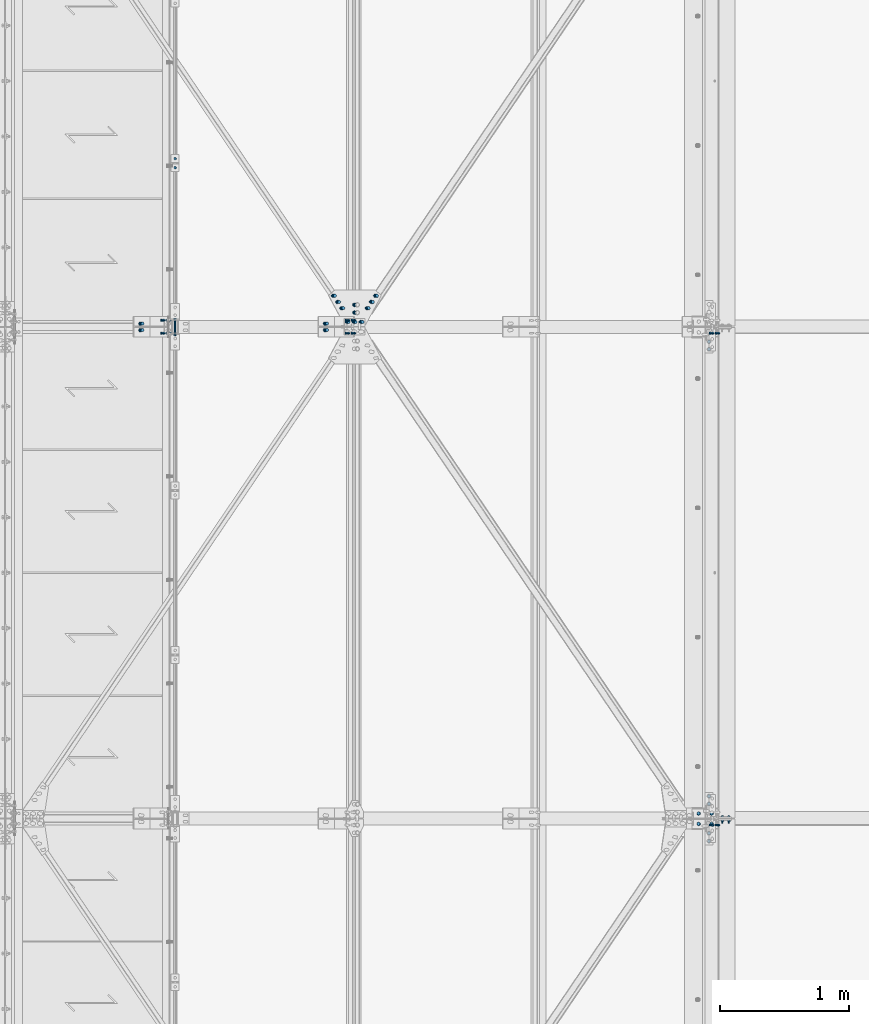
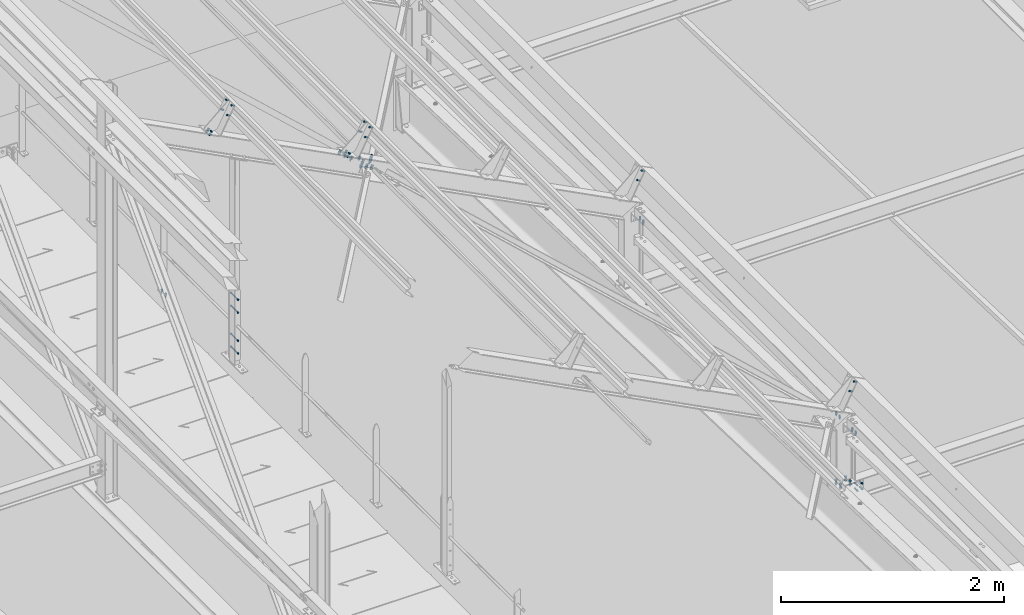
# One storey, part 176 of 362: 18 mechanical fasteners.
"""IFC2X3 building model written with IfcOpenShell, lengths in millimetres."""

from ifc_helpers import new_model, si_unit, frame, frame_2d, origin_with_axes, origin_2d_with_axis, place, context, subcontext, project, spatial, polyline, circle_curve, parameter, trimmed, segment, composite_curve, circle, outline, extrude, source, transform, mapped, material, type_object, element, save


model = new_model("IFC2X3")

# Units and contexts
model_context = context("Model", 3, precision=1e-05, world=origin_with_axes())
body_context = subcontext(model_context, "Body", "Model", "MODEL_VIEW")
ifc_project = project(units=[si_unit("LENGTHUNIT", "METRE", prefix="MILLI"), si_unit("AREAUNIT", "SQUARE_METRE"), si_unit("VOLUMEUNIT", "CUBIC_METRE"), si_unit("MASSUNIT", "GRAM", prefix="KILO"), si_unit("TIMEUNIT", "SECOND"), si_unit("PLANEANGLEUNIT", "RADIAN"), si_unit("SOLIDANGLEUNIT", "STERADIAN"), si_unit("THERMODYNAMICTEMPERATUREUNIT", "DEGREE_CELSIUS"), si_unit("LUMINOUSINTENSITYUNIT", "LUMEN")], contexts=[model_context])

# Site, building, storey
site_placement = place(None, origin_with_axes())
site = spatial("IfcSite", under=ifc_project, at=site_placement, Name="Undefined", CompositionType="ELEMENT")
building_placement = place(site_placement, origin_with_axes())
building = spatial("IfcBuilding", under=site, at=building_placement, Name="Undefined", CompositionType="ELEMENT")
storey_placement = place(building_placement, origin_with_axes())
storey = spatial("IfcBuildingStorey", under=building, at=storey_placement, Name="Undefined", CompositionType="ELEMENT", Elevation=0.0)

# Mechanical fasteners
ifc_material_1 = material(Name="8.8-SB-ZINGUE")
mechanical_fastener_type = type_object("IfcMechanicalFastenerType", Name="Bolt assembly")
shared_shape_1 = source(origin_with_axes(), body_context, "Body", "SweptSolid", [
    extrude(circle(Radius=7.0, at=origin_2d_with_axis()), frame((0.0, -0.10007666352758, 0.0), z_axis=(0.0, 1.0, 0.0), x_axis=(1.0, 0.0, 0.0)), (0.0, 0.0, 1.0), 3.1),
    extrude(circle(Radius=7.0, at=origin_2d_with_axis()), frame((0.0, -9.9, 0.0), z_axis=(0.0, 1.0, 0.0), x_axis=(1.0, 0.0, 0.0)), (0.0, 0.0, 1.0), 10.0),
    extrude(outline(polyline([(10.39230484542, 0.0), (5.19615242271, 9.00000000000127), (-5.19615242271, 9.00000000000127), (-10.39230484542, 0.0), (-5.19615242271, -9.00000000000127), (5.19615242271, -9.00000000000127), (10.39230484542, 0.0)])), frame((0.0, -17.92, 0.0), z_axis=(0.0, 1.0, 0.0), x_axis=(1.0, 0.0, 0.0)), (0.0, 0.0, 1.0), 7.92),
    extrude(circle(Radius=6.0, at=origin_2d_with_axis()), frame((0.0, -10.0000010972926, 0.0), z_axis=(0.0, 1.0, 0.0), x_axis=(1.0, 0.0, 0.0)), (0.0, 0.0, 1.0), 30.0),
    extrude(outline(polyline([(11.5008173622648, 0.0), (5.7504086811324, 9.96000000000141), (-5.7504086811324, 9.96000000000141), (-11.5008173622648, 0.0), (-5.7504086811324, -9.96000000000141), (5.7504086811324, -9.96000000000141), (11.5008173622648, 0.0)])), frame((0.0, 3.00000067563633, 0.0), z_axis=(0.0, 1.0, 0.0), x_axis=(1.0, 0.0, 0.0)), (0.0, 0.0, 1.0), 7.92),
])
for number, where, z_axis, x_axis, name in (
    (1, (28930.4869404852, 11350.0000596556, 8812.17854909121), (0.0, 1.0, 0.0), (0.460093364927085, 0.0, 0.887870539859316), "Bolt assembly"),
    (2, (28930.4869404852, 7550.0000596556, 8812.17854909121), (0.0, 1.0, 0.0), (0.460093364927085, 0.0, 0.887870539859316), "Bolt assembly"),
):
    element("IfcMechanicalFastener", number, at=place(storey_placement, frame(where, z_axis=z_axis, x_axis=x_axis)), inside=storey, type_object=mechanical_fastener_type, material=ifc_material_1, Name=name, NominalDiameter=12.0, NominalLength=30.0, context=body_context, shape_type="MappedRepresentation", body=[
        mapped(shared_shape_1, transform((0.0, 0.0, 0.0))),
        mapped(shared_shape_1, transform((99.9999999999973, -1.63709046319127e-11, 7.73070496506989e-12))),
    ])
shared_shape_2 = source(origin_with_axes(), body_context, "Body", "SweptSolid", [
    extrude(circle(Radius=7.0, at=origin_2d_with_axis()), frame((0.0, -10.0000010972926, 0.0), z_axis=(0.0, 1.0, 0.0), x_axis=(1.0, 0.0, 0.0)), (0.0, 0.0, 1.0), 10.1),
    extrude(outline(polyline([(10.39230484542, 0.0), (5.19615242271, 9.00000000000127), (-5.19615242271, 9.00000000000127), (-10.39230484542, 0.0), (-5.19615242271, -9.00000000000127), (5.19615242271, -9.00000000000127), (10.39230484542, 0.0)])), frame((0.0, -17.92, 0.0), z_axis=(0.0, 1.0, 0.0), x_axis=(1.0, 0.0, 0.0)), (0.0, 0.0, 1.0), 7.92),
    extrude(circle(Radius=6.0, at=origin_2d_with_axis()), frame((0.0, -10.0000010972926, 0.0), z_axis=(0.0, 1.0, 0.0), x_axis=(1.0, 0.0, 0.0)), (0.0, 0.0, 1.0), 40.0),
    extrude(outline(polyline([(11.5008173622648, 0.0), (5.7504086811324, 9.96000000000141), (-5.7504086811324, 9.96000000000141), (-11.5008173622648, 0.0), (-5.7504086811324, -9.96000000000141), (5.7504086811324, -9.96000000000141), (11.5008173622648, 0.0)])), frame((0.0, 0.0, 0.0), z_axis=(0.0, 1.0, 0.0), x_axis=(1.0, 0.0, 0.0)), (0.0, 0.0, 1.0), 7.92),
])
mechanical_fastener_1_placement = place(storey_placement, frame((24783.9916066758, 12630.0034395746, 8239.99999832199), z_axis=(-1.0, 0.0, 0.0), x_axis=(0.0, 1.0, 0.0)))
element("IfcMechanicalFastener", 3, at=mechanical_fastener_1_placement, inside=storey, type_object=mechanical_fastener_type, material=ifc_material_1, Name="Bolt assembly", NominalDiameter=12.0, NominalLength=40.0, context=body_context, shape_type="MappedRepresentation", body=[
    mapped(shared_shape_2, transform((0.0, 0.0, 0.0))),
    mapped(shared_shape_2, transform((70.0, -2.91038304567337e-11, 2.18278728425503e-10))),
])
ifc_material_2 = material(Name="6.8")
shared_shape_3 = source(origin_with_axes(), body_context, "Body", "SweptSolid", [
    extrude(circle(Radius=7.0, at=origin_2d_with_axis()), frame((0.0, -49.9999938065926, 0.0), z_axis=(0.0, 1.0, 0.0), x_axis=(1.0, 0.0, 0.0)), (0.0, 0.0, 1.0), 100.0),
    extrude(circle(Radius=7.0, at=origin_2d_with_axis()), frame((0.0, -57.3998951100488, 0.0), z_axis=(0.0, 1.0, 0.0), x_axis=(1.0, 0.0, 0.0)), (0.0, 0.0, 1.0), 5.0),
    extrude(circle(Radius=7.0, at=origin_2d_with_axis()), frame((0.0, 52.4001048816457, 0.0), z_axis=(0.0, 1.0, 0.0), x_axis=(1.0, 0.0, 0.0)), (0.0, 0.0, 1.0), 5.1),
    extrude(outline(polyline([(10.96965511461, 0.0), (5.484827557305, 9.50000000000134), (-5.484827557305, 9.50000000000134), (-10.96965511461, 0.0), (-5.484827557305, -9.50000000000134), (5.484827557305, -9.50000000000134), (10.96965511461, 0.0)])), frame((0.0, -65.4998951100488, 0.0), z_axis=(0.0, 1.0, 0.0), x_axis=(1.0, 0.0, 0.0)), (0.0, 0.0, 1.0), 8.0),
    extrude(circle(Radius=6.0, at=origin_2d_with_axis()), frame((0.0, -57.4998951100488, 0.0), z_axis=(0.0, 1.0, 0.0), x_axis=(1.0, 0.0, 0.0)), (0.0, 0.0, 1.0), 130.0),
    extrude(outline(polyline([(10.39230484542, 0.0), (5.19615242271, 9.00000000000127), (-5.19615242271, 9.00000000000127), (-10.39230484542, 0.0), (-5.19615242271, -9.00000000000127), (5.19615242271, -9.00000000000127), (10.39230484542, 0.0)])), frame((0.0, 57.5001048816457, 0.0), z_axis=(0.0, 1.0, 0.0), x_axis=(1.0, 0.0, 0.0)), (0.0, 0.0, 1.0), 10.8),
])
for number, where, z_axis, x_axis, name in (
    (4, (24783.9916060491, 11400.0001063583, 8450.17500164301), (0.0, 0.0, 1.0), (-1.0, 0.0, 0.0), "Bolt assembly"),
    (5, (24783.9916060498, 11400.0001066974, 8897.42499864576), (0.0, 0.0, 1.0), (-1.0, 0.0, 0.0), "Bolt assembly"),
):
    element("IfcMechanicalFastener", number, at=place(storey_placement, frame(where, z_axis=z_axis, x_axis=x_axis)), inside=storey, type_object=mechanical_fastener_type, material=ifc_material_2, Name=name, NominalDiameter=12.0, NominalLength=130.0, context=body_context, shape_type="MappedRepresentation", body=[
        mapped(shared_shape_3, transform((0.0, 6.3664629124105e-11, -70.0))),
        mapped(shared_shape_3, transform((0.0, -6.3664629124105e-11, 70.0))),
    ])
ifc_material_3 = material(Name="#_SB-8.8-ZINGUE")
shared_shape_4 = source(origin_with_axes(), body_context, "Body", "SweptSolid", [
    extrude(circle(Radius=9.0, at=origin_2d_with_axis()), frame((0.0, -5.8999542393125, 0.0), z_axis=(0.0, 1.0, 0.0), x_axis=(1.0, 0.0, 0.0)), (0.0, 0.0, 1.0), 6.0),
    extrude(circle(Radius=9.0, at=origin_2d_with_axis()), frame((0.0, -0.10007666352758, 0.0), z_axis=(0.0, 1.0, 0.0), x_axis=(1.0, 0.0, 0.0)), (0.0, 0.0, 1.0), 6.1),
    extrude(outline(polyline([(13.85640646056, 0.0), (6.92820323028, 12.0000000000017), (-6.92820323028, 12.0000000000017), (-13.85640646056, 0.0), (-6.92820323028, -12.0000000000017), (6.92820323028, -12.0000000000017), (13.85640646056, 0.0)])), frame((0.0, -16.5599735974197, 0.0), z_axis=(0.0, 1.0, 0.0), x_axis=(1.0, 0.0, 0.0)), (0.0, 0.0, 1.0), 10.56),
    extrude(circle(Radius=8.0, at=origin_2d_with_axis()), frame((0.0, -5.9999542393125, 0.0), z_axis=(0.0, 1.0, 0.0), x_axis=(1.0, 0.0, 0.0)), (0.0, 0.0, 1.0), 40.0),
    extrude(outline(polyline([(15.3344231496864, 0.0), (7.6672115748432, 13.2800000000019), (-7.6672115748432, 13.2800000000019), (-15.3344231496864, 0.0), (-7.6672115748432, -13.2800000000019), (7.6672115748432, -13.2800000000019), (15.3344231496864, 0.0)])), frame((0.0, 6.0, 0.0), z_axis=(0.0, 1.0, 0.0), x_axis=(1.0, 0.0, 0.0)), (0.0, 0.0, 1.0), 10.56),
])
mechanical_fastener_2_placement = place(storey_placement, frame((26273.0064497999, 11544.8102876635, 9840.13105217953), z_axis=(-0.70611707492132, 0.606225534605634, 0.365908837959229), x_axis=(0.53824982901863, 0.795292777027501, -0.278920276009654)))
element("IfcMechanicalFastener", 6, at=mechanical_fastener_2_placement, inside=storey, type_object=mechanical_fastener_type, material=ifc_material_3, Name="Bolt assembly", NominalDiameter=16.0, NominalLength=40.0, context=body_context, shape_type="MappedRepresentation", body=[
    mapped(shared_shape_4, transform((0.0, 0.0, 0.0))),
    mapped(shared_shape_4, transform((60.0, 0.0, 0.0))),
    mapped(shared_shape_4, transform((120.0, 0.0, 0.0))),
])
shared_shape_5 = source(origin_with_axes(), body_context, "Body", "SweptSolid", [
    extrude(circle(Radius=7.0, at=origin_2d_with_axis()), frame((0.0, -0.10007666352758, 0.0), z_axis=(0.0, 1.0, 0.0), x_axis=(1.0, 0.0, 0.0)), (0.0, 0.0, 1.0), 1.6),
    extrude(circle(Radius=7.0, at=origin_2d_with_axis()), frame((0.0, -9.9, 0.0), z_axis=(0.0, 1.0, 0.0), x_axis=(1.0, 0.0, 0.0)), (0.0, 0.0, 1.0), 10.0),
    extrude(outline(polyline([(10.39230484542, 0.0), (5.19615242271, 9.00000000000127), (-5.19615242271, 9.00000000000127), (-10.39230484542, 0.0), (-5.19615242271, -9.00000000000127), (5.19615242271, -9.00000000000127), (10.39230484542, 0.0)])), frame((0.0, -17.92, 0.0), z_axis=(0.0, 1.0, 0.0), x_axis=(1.0, 0.0, 0.0)), (0.0, 0.0, 1.0), 7.92),
    extrude(circle(Radius=6.0, at=origin_2d_with_axis()), frame((0.0, -10.0000010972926, 0.0), z_axis=(0.0, 1.0, 0.0), x_axis=(1.0, 0.0, 0.0)), (0.0, 0.0, 1.0), 30.0),
    extrude(outline(polyline([(11.5008173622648, 0.0), (5.7504086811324, 9.96000000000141), (-5.7504086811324, 9.96000000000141), (-11.5008173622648, 0.0), (-5.7504086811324, -9.96000000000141), (5.7504086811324, -9.96000000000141), (11.5008173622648, 0.0)])), frame((0.0, 1.50001896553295, 0.0), z_axis=(0.0, 1.0, 0.0), x_axis=(1.0, 0.0, 0.0)), (0.0, 0.0, 1.0), 7.92),
])
for number, where, z_axis, x_axis, name in (
    (7, (24690.1060148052, 11400.0000596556, 11008.4114172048), (0.0, 1.0, 0.0), (0.460093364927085, 0.0, 0.887870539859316), "Bolt assembly"),
    (8, (26116.7310155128, 11400.0000596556, 10269.1364403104), (0.0, 1.0, 0.0), (0.460093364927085, 0.0, 0.887870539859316), "Bolt assembly"),
):
    element("IfcMechanicalFastener", number, at=place(storey_placement, frame(where, z_axis=z_axis, x_axis=x_axis)), inside=storey, type_object=mechanical_fastener_type, material=ifc_material_1, Name=name, NominalDiameter=12.0, NominalLength=30.0, context=body_context, shape_type="MappedRepresentation", body=[
        mapped(shared_shape_5, transform((0.0, 0.0, -50.0))),
        mapped(shared_shape_5, transform((102.00000000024, -2.51020537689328e-10, -50.0))),
        mapped(shared_shape_5, transform((0.0, 0.0, 50.0))),
        mapped(shared_shape_5, transform((102.00000000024, -2.51020537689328e-10, 50.0))),
    ])
shared_shape_6 = source(origin_with_axes(), body_context, "Body", "SweptSolid", [
    extrude(circle(Radius=9.0, at=origin_2d_with_axis()), frame((0.0, -0.0999426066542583, 0.0), z_axis=(0.0, 1.0, 0.0), x_axis=(1.0, 0.0, 0.0)), (0.0, 0.0, 1.0), 8.6),
    extrude(circle(Radius=9.0, at=origin_2d_with_axis()), frame((0.0, -9.9, 0.0), z_axis=(0.0, 1.0, 0.0), x_axis=(1.0, 0.0, 0.0)), (0.0, 0.0, 1.0), 10.0),
    extrude(outline(polyline([(13.85640646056, 0.0), (6.92820323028, 12.0000000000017), (-6.92820323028, 12.0000000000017), (-13.85640646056, 0.0), (-6.92820323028, -12.0000000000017), (6.92820323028, -12.0000000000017), (13.85640646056, 0.0)])), frame((0.0, -20.5600000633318, 0.0), z_axis=(0.0, 1.0, 0.0), x_axis=(1.0, 0.0, 0.0)), (0.0, 0.0, 1.0), 10.56),
    extrude(circle(Radius=8.0, at=origin_2d_with_axis()), frame((0.0, -10.0000010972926, 0.0), z_axis=(0.0, 1.0, 0.0), x_axis=(1.0, 0.0, 0.0)), (0.0, 0.0, 1.0), 40.0),
    extrude(outline(polyline([(15.3344231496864, 0.0), (7.6672115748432, 13.2800000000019), (-7.6672115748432, 13.2800000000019), (-15.3344231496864, 0.0), (-7.6672115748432, -13.2800000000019), (7.6672115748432, -13.2800000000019), (15.3344231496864, 0.0)])), frame((0.0, 8.50005763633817, 0.0), z_axis=(0.0, 1.0, 0.0), x_axis=(1.0, 0.0, 0.0)), (0.0, 0.0, 1.0), 10.56),
])
for number, where, z_axis, x_axis, name in (
    (9, (24522.9168670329, 11400.0000375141, 10859.6539862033), (0.0, 1.0, 0.0), (0.887870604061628, 0.0, -0.460093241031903), "Bolt assembly"),
    (10, (25949.541867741, 11400.0000375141, 10120.3790093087), (0.0, 1.0, 0.0), (0.887870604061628, 0.0, -0.460093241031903), "Bolt assembly"),
):
    element("IfcMechanicalFastener", number, at=place(storey_placement, frame(where, z_axis=z_axis, x_axis=x_axis)), inside=storey, type_object=mechanical_fastener_type, material=ifc_material_1, Name=name, NominalDiameter=16.0, NominalLength=40.0, context=body_context, shape_type="MappedRepresentation", body=[
        mapped(shared_shape_6, transform((0.0, 0.0, -25.0))),
        mapped(shared_shape_6, transform((0.0, 0.0, 25.0))),
    ])
shared_shape_7 = source(origin_with_axes(), body_context, "Body", "SweptSolid", [
    extrude(circle(Radius=9.0, at=origin_2d_with_axis()), frame((0.0, 5.90002706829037, 0.0), z_axis=(0.0, 1.0, 0.0), x_axis=(1.0, 0.0, 0.0)), (0.0, 0.0, 1.0), 6.1),
    extrude(circle(Radius=9.0, at=origin_2d_with_axis()), frame((0.0, 0.1, 0.0), z_axis=(0.0, 1.0, 0.0), x_axis=(1.0, 0.0, 0.0)), (0.0, 0.0, 1.0), 6.0),
    extrude(outline(polyline([(13.85640646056, 0.0), (6.92820323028, 12.0000000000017), (-6.92820323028, 12.0000000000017), (-13.85640646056, 0.0), (-6.92820323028, -12.0000000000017), (6.92820323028, -12.0000000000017), (13.85640646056, 0.0)])), frame((0.0, -10.5600019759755, 0.0), z_axis=(0.0, 1.0, 0.0), x_axis=(1.0, 0.0, 0.0)), (0.0, 0.0, 1.0), 10.56),
    extrude(circle(Radius=8.0, at=origin_2d_with_axis()), frame((0.0, 0.0, 0.0), z_axis=(0.0, 1.0, 0.0), x_axis=(1.0, 0.0, 0.0)), (0.0, 0.0, 1.0), 40.0),
    extrude(outline(polyline([(15.3344231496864, 0.0), (7.6672115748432, 13.2800000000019), (-7.6672115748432, 13.2800000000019), (-15.3344231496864, 0.0), (-7.6672115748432, -13.2800000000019), (7.6672115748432, -13.2800000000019), (15.3344231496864, 0.0)])), frame((0.0, 12.0000270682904, 0.0), z_axis=(0.0, 1.0, 0.0), x_axis=(1.0, 0.0, 0.0)), (0.0, 0.0, 1.0), 10.56),
])
mechanical_fastener_3_placement = place(storey_placement, frame((26175.0008538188, 11438.0000998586, 9890.91740872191), z_axis=(0.887870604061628, 0.0, -0.460093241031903), x_axis=(0.0, -1.0, 0.0)))
element("IfcMechanicalFastener", 11, at=mechanical_fastener_3_placement, inside=storey, type_object=mechanical_fastener_type, material=ifc_material_3, Name="Bolt assembly", NominalDiameter=16.0, NominalLength=40.0, context=body_context, shape_type="MappedRepresentation", body=[
    mapped(shared_shape_7, transform((0.0, 0.0, -60.0))),
    mapped(shared_shape_7, transform((0.0, 0.0, 0.0))),
    mapped(shared_shape_7, transform((0.0, 0.0, 60.0))),
])
shared_shape_8 = source(origin_with_axes(), body_context, "Body", "SweptSolid", [
    extrude(circle(Radius=9.0, at=origin_2d_with_axis()), frame((0.0, -5.8999542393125, 0.0), z_axis=(0.0, 1.0, 0.0), x_axis=(1.0, 0.0, 0.0)), (0.0, 0.0, 1.0), 6.0),
    extrude(circle(Radius=9.0, at=origin_2d_with_axis()), frame((0.0, -0.0999426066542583, 0.0), z_axis=(0.0, 1.0, 0.0), x_axis=(1.0, 0.0, 0.0)), (0.0, 0.0, 1.0), 6.1),
    extrude(outline(polyline([(13.85640646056, 0.0), (6.92820323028, 12.0000000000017), (-6.92820323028, 12.0000000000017), (-13.85640646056, 0.0), (-6.92820323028, -12.0000000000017), (6.92820323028, -12.0000000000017), (13.85640646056, 0.0)])), frame((0.0, -16.5599735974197, 0.0), z_axis=(0.0, 1.0, 0.0), x_axis=(1.0, 0.0, 0.0)), (0.0, 0.0, 1.0), 10.56),
    extrude(circle(Radius=8.0, at=origin_2d_with_axis()), frame((0.0, -5.9999542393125, 0.0), z_axis=(0.0, 1.0, 0.0), x_axis=(1.0, 0.0, 0.0)), (0.0, 0.0, 1.0), 40.0),
    extrude(outline(polyline([(15.3344231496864, 0.0), (7.6672115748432, 13.2800000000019), (-7.6672115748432, 13.2800000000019), (-15.3344231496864, 0.0), (-7.6672115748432, -13.2800000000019), (7.6672115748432, -13.2800000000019), (15.3344231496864, 0.0)])), frame((0.0, 6.0, 0.0), z_axis=(0.0, 1.0, 0.0), x_axis=(1.0, 0.0, 0.0)), (0.0, 0.0, 1.0), 10.56),
])
mechanical_fastener_4_placement = place(storey_placement, frame((26076.993362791, 11544.8102840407, 9941.70474554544), z_axis=(-0.706117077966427, -0.606225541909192, 0.365908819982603), x_axis=(-0.538249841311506, 0.795292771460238, 0.278920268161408)))
element("IfcMechanicalFastener", 12, at=mechanical_fastener_4_placement, inside=storey, type_object=mechanical_fastener_type, material=ifc_material_3, Name="Bolt assembly", NominalDiameter=16.0, NominalLength=40.0, context=body_context, shape_type="MappedRepresentation", body=[
    mapped(shared_shape_8, transform((0.0, 0.0, 0.0))),
    mapped(shared_shape_8, transform((60.0, 0.0, 0.0))),
    mapped(shared_shape_8, transform((120.0, 0.0, 0.0))),
])
shared_shape_9 = source(origin_with_axes(), body_context, "Body", "SweptSolid", [
    extrude(circle(Radius=9.0, at=origin_2d_with_axis()), frame((0.0, -3.89999843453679, 0.0), z_axis=(0.0, 1.0, 0.0), x_axis=(1.0, 0.0, 0.0)), (0.0, 0.0, 1.0), 4.0),
    extrude(circle(Radius=9.0, at=origin_2d_with_axis()), frame((0.0, -0.100011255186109, 0.0), z_axis=(0.0, 1.0, 0.0), x_axis=(1.0, 0.0, 0.0)), (0.0, 0.0, 1.0), 6.1),
    extrude(outline(polyline([(13.85640646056, 0.0), (6.92820323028, 12.0000000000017), (-6.92820323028, 12.0000000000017), (-13.85640646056, 0.0), (-6.92820323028, -12.0000000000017), (6.92820323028, -12.0000000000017), (13.85640646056, 0.0)])), frame((0.0, -14.560000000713, 0.0), z_axis=(0.0, 1.0, 0.0), x_axis=(1.0, 0.0, 0.0)), (0.0, 0.0, 1.0), 10.56),
    extrude(circle(Radius=8.0, at=origin_2d_with_axis()), frame((0.0, -3.99999923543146, 0.0), z_axis=(0.0, 1.0, 0.0), x_axis=(1.0, 0.0, 0.0)), (0.0, 0.0, 1.0), 30.0),
    extrude(outline(polyline([(15.3344231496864, 0.0), (7.6672115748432, 13.2800000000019), (-7.6672115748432, 13.2800000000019), (-15.3344231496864, 0.0), (-7.6672115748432, -13.2800000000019), (7.6672115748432, -13.2800000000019), (15.3344231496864, 0.0)])), frame((0.0, 6.0, 0.0), z_axis=(0.0, 1.0, 0.0), x_axis=(1.0, 0.0, 0.0)), (0.0, 0.0, 1.0), 10.56),
])
mechanical_fastener_5_placement = place(storey_placement, frame((26175.0017887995, 11509.9986481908, 9890.91692365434), z_axis=(-0.887870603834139, 2.26363914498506e-05, 0.460093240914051), x_axis=(2.00950000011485e-05, 0.999999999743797, -1.04209999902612e-05)))
element("IfcMechanicalFastener", 13, at=mechanical_fastener_5_placement, inside=storey, type_object=mechanical_fastener_type, material=ifc_material_3, Name="Bolt assembly", NominalDiameter=16.0, NominalLength=30.0, context=body_context, shape_type="MappedRepresentation", body=[
    mapped(shared_shape_9, transform((0.0, 0.0, 0.0))),
    mapped(shared_shape_9, transform((60.0, 0.0, 0.0))),
])
shared_shape_10 = source(origin_with_axes(), body_context, "Body", "SweptSolid", [
    extrude(circle(Radius=7.0, at=origin_2d_with_axis()), frame((0.0, -3.89999843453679, 0.0), z_axis=(0.0, 1.0, 0.0), x_axis=(1.0, 0.0, 0.0)), (0.0, 0.0, 1.0), 4.0),
    extrude(outline(composite_curve([segment(polyline([(-7.0, 7.0), (7.0, 7.0)]), True, "CONTINUOUS"), segment(trimmed(circle_curve(frame_2d((7.0, 0.0), x_axis=(0.0, 1.0)), 7.0), [parameter(0.0)], [parameter(3.14159265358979)], False, "PARAMETER"), True, "CONTINUOUS"), segment(polyline([(7.0, -7.0), (-7.0, -7.0)]), True, "CONTINUOUS"), segment(trimmed(circle_curve(frame_2d((-7.0, 0.0), x_axis=(0.0, -1.0)), 7.0), [parameter(0.0)], [parameter(3.14159265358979)], False, "PARAMETER"), True, "DISCONTINUOUS")], self_intersect=False)), frame((0.0, -0.100011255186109, 0.0), z_axis=(0.0, 1.0, 0.0), x_axis=(1.0, 0.0, 0.0)), (0.0, 0.0, 1.0), 10.1),
    extrude(outline(polyline([(10.39230484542, 0.0), (5.19615242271, 9.00000000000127), (-5.19615242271, 9.00000000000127), (-10.39230484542, 0.0), (-5.19615242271, -9.00000000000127), (5.19615242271, -9.00000000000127), (10.39230484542, 0.0)])), frame((0.0, -11.9199984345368, 0.0), z_axis=(0.0, 1.0, 0.0), x_axis=(1.0, 0.0, 0.0)), (0.0, 0.0, 1.0), 7.92),
    extrude(circle(Radius=6.0, at=origin_2d_with_axis()), frame((0.0, -3.99999923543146, 0.0), z_axis=(0.0, 1.0, 0.0), x_axis=(1.0, 0.0, 0.0)), (0.0, 0.0, 1.0), 40.0),
    extrude(circle(Radius=10.8, at=origin_2d_with_axis()), frame((0.0, 10.0000000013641, 0.0), z_axis=(0.0, 1.0, 0.0), x_axis=(1.0, 0.0, 0.0)), (0.0, 0.0, 1.0), 3.96),
    extrude(outline(polyline([(11.5008173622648, 0.0), (5.7504086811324, 9.96000000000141), (-5.7504086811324, 9.96000000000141), (-11.5008173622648, 0.0), (-5.7504086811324, -9.96000000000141), (5.7504086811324, -9.96000000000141), (11.5008173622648, 0.0)])), frame((0.0, 13.96, 0.0), z_axis=(0.0, 1.0, 0.0), x_axis=(1.0, 0.0, 0.0)), (0.0, 0.0, 1.0), 7.92),
])
mechanical_fastener_6_placement = place(storey_placement, frame((28910.0, 11226.5, 8450.0), z_axis=(-1.0, 0.0, 0.0), x_axis=(0.0, 1.0, 0.0)))
element("IfcMechanicalFastener", 14, at=mechanical_fastener_6_placement, inside=storey, type_object=mechanical_fastener_type, material=ifc_material_1, Name="Bolt assembly", NominalDiameter=12.0, NominalLength=40.0, context=body_context, shape_type="MappedRepresentation", body=[
    mapped(shared_shape_10, transform((0.0, 0.0, 0.0))),
    mapped(shared_shape_10, transform((60.0, 0.0, 0.0))),
])
shared_shape_11 = source(origin_with_axes(), body_context, "Body", "SweptSolid", [
    extrude(circle(Radius=7.0, at=origin_2d_with_axis()), frame((0.0, -3.89999843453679, 0.0), z_axis=(0.0, 1.0, 0.0), x_axis=(1.0, 0.0, 0.0)), (0.0, 0.0, 1.0), 4.0),
    extrude(outline(composite_curve([segment(polyline([(-7.0, 7.0), (7.0, 7.0)]), True, "CONTINUOUS"), segment(trimmed(circle_curve(frame_2d((7.0, 0.0), x_axis=(0.0, 1.0)), 7.0), [parameter(0.0)], [parameter(3.14159265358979)], False, "PARAMETER"), True, "CONTINUOUS"), segment(polyline([(7.0, -7.0), (-7.0, -7.0)]), True, "CONTINUOUS"), segment(trimmed(circle_curve(frame_2d((-7.0, 0.0), x_axis=(0.0, -1.0)), 7.0), [parameter(0.0)], [parameter(3.14159265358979)], False, "PARAMETER"), True, "DISCONTINUOUS")], self_intersect=False)), frame((0.0, -0.100011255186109, 0.0), z_axis=(0.0, 1.0, 0.0), x_axis=(1.0, 0.0, 0.0)), (0.0, 0.0, 1.0), 10.1),
    extrude(outline(polyline([(10.39230484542, 0.0), (5.19615242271, 9.00000000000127), (-5.19615242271, 9.00000000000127), (-10.39230484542, 0.0), (-5.19615242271, -9.00000000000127), (5.19615242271, -9.00000000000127), (10.39230484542, 0.0)])), frame((0.0, -11.9199984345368, 0.0), z_axis=(0.0, 1.0, 0.0), x_axis=(1.0, 0.0, 0.0)), (0.0, 0.0, 1.0), 7.92),
    extrude(circle(Radius=6.0, at=origin_2d_with_axis()), frame((0.0, -3.99999923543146, 0.0), z_axis=(0.0, 1.0, 0.0), x_axis=(1.0, 0.0, 0.0)), (0.0, 0.0, 1.0), 40.0),
    extrude(circle(Radius=10.8, at=origin_2d_with_axis()), frame((0.0, 10.0000000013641, 0.0), z_axis=(0.0, 1.0, 0.0), x_axis=(1.0, 0.0, 0.0)), (0.0, 0.0, 1.0), 3.96),
    extrude(outline(polyline([(11.5008173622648, 0.0), (5.7504086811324, 9.96000000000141), (-5.7504086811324, 9.96000000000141), (-11.5008173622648, 0.0), (-5.7504086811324, -9.96000000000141), (5.7504086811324, -9.96000000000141), (11.5008173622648, 0.0)])), frame((0.0, 13.96, 0.0), z_axis=(0.0, 1.0, 0.0), x_axis=(1.0, 0.0, 0.0)), (0.0, 0.0, 1.0), 7.92),
])
mechanical_fastener_7_placement = place(storey_placement, frame((28910.0, 7773.5, 8450.0), z_axis=(1.0, 0.0, 0.0), x_axis=(0.0, -1.0, 0.0)))
element("IfcMechanicalFastener", 15, at=mechanical_fastener_7_placement, inside=storey, type_object=mechanical_fastener_type, material=ifc_material_1, Name="Bolt assembly", NominalDiameter=12.0, NominalLength=40.0, context=body_context, shape_type="MappedRepresentation", body=[
    mapped(shared_shape_11, transform((0.0, 0.0, 0.0))),
    mapped(shared_shape_11, transform((60.0, 0.0, 0.0))),
])
shared_shape_12 = source(origin_with_axes(), body_context, "Body", "SweptSolid", [
    extrude(circle(Radius=7.0, at=origin_2d_with_axis()), frame((0.0, -3.89999843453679, 0.0), z_axis=(0.0, 1.0, 0.0), x_axis=(1.0, 0.0, 0.0)), (0.0, 0.0, 1.0), 4.0),
    extrude(outline(composite_curve([segment(polyline([(-7.0, 7.0), (7.0, 7.0)]), True, "CONTINUOUS"), segment(trimmed(circle_curve(frame_2d((7.0, 0.0), x_axis=(0.0, 1.0)), 7.0), [parameter(0.0)], [parameter(3.14159265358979)], False, "PARAMETER"), True, "CONTINUOUS"), segment(polyline([(7.0, -7.0), (-7.0, -7.0)]), True, "CONTINUOUS"), segment(trimmed(circle_curve(frame_2d((-7.0, 0.0), x_axis=(0.0, -1.0)), 7.0), [parameter(0.0)], [parameter(3.14159265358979)], False, "PARAMETER"), True, "DISCONTINUOUS")], self_intersect=False)), frame((0.0, -0.100011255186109, 0.0), z_axis=(0.0, 1.0, 0.0), x_axis=(1.0, 0.0, 0.0)), (0.0, 0.0, 1.0), 10.1),
    extrude(outline(polyline([(10.39230484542, 0.0), (5.19615242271, 9.00000000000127), (-5.19615242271, 9.00000000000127), (-10.39230484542, 0.0), (-5.19615242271, -9.00000000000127), (5.19615242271, -9.00000000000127), (10.39230484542, 0.0)])), frame((0.0, -11.9199984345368, 0.0), z_axis=(0.0, 1.0, 0.0), x_axis=(1.0, 0.0, 0.0)), (0.0, 0.0, 1.0), 7.92),
    extrude(circle(Radius=6.0, at=origin_2d_with_axis()), frame((0.0, -3.99999923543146, 0.0), z_axis=(0.0, 1.0, 0.0), x_axis=(1.0, 0.0, 0.0)), (0.0, 0.0, 1.0), 40.0),
    extrude(circle(Radius=10.8, at=origin_2d_with_axis()), frame((0.0, 10.0000000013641, 0.0), z_axis=(0.0, 1.0, 0.0), x_axis=(1.0, 0.0, 0.0)), (0.0, 0.0, 1.0), 3.96),
    extrude(outline(polyline([(11.5008173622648, 0.0), (5.7504086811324, 9.96000000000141), (-5.7504086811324, 9.96000000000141), (-11.5008173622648, 0.0), (-5.7504086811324, -9.96000000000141), (5.7504086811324, -9.96000000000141), (11.5008173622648, 0.0)])), frame((0.0, 13.96, 0.0), z_axis=(0.0, 1.0, 0.0), x_axis=(1.0, 0.0, 0.0)), (0.0, 0.0, 1.0), 7.92),
])
mechanical_fastener_8_placement = place(storey_placement, frame((28910.0, 7426.5, 8450.0), z_axis=(-1.0, 0.0, 0.0), x_axis=(0.0, 1.0, 0.0)))
element("IfcMechanicalFastener", 16, at=mechanical_fastener_8_placement, inside=storey, type_object=mechanical_fastener_type, material=ifc_material_1, Name="Bolt assembly", NominalDiameter=12.0, NominalLength=40.0, context=body_context, shape_type="MappedRepresentation", body=[
    mapped(shared_shape_12, transform((0.0, 0.0, 0.0))),
    mapped(shared_shape_12, transform((60.0, 0.0, 0.0))),
])
shared_shape_13 = source(origin_with_axes(), body_context, "Body", "SweptSolid", [
    extrude(circle(Radius=9.0, at=origin_2d_with_axis()), frame((0.0, -0.0990448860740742, 0.0), z_axis=(0.0, 1.0, 0.0), x_axis=(1.0, 0.0, 0.0)), (0.0, 0.0, 1.0), 17.3),
    extrude(circle(Radius=9.0, at=origin_2d_with_axis()), frame((0.0, -9.9, 0.0), z_axis=(0.0, 1.0, 0.0), x_axis=(1.0, 0.0, 0.0)), (0.0, 0.0, 1.0), 10.0),
    extrude(outline(polyline([(13.85640646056, 0.0), (6.92820323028, 12.0000000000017), (-6.92820323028, 12.0000000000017), (-13.85640646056, 0.0), (-6.92820323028, -12.0000000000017), (6.92820323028, -12.0000000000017), (13.85640646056, 0.0)])), frame((0.0, -20.5600000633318, 0.0), z_axis=(0.0, 1.0, 0.0), x_axis=(1.0, 0.0, 0.0)), (0.0, 0.0, 1.0), 10.56),
    extrude(circle(Radius=8.0, at=origin_2d_with_axis()), frame((0.0, -10.0000010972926, 0.0), z_axis=(0.0, 1.0, 0.0), x_axis=(1.0, 0.0, 0.0)), (0.0, 0.0, 1.0), 50.0),
    extrude(outline(polyline([(15.3344231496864, 0.0), (7.6672115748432, 13.2800000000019), (-7.6672115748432, 13.2800000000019), (-15.3344231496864, 0.0), (-7.6672115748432, -13.2800000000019), (7.6672115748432, -13.2800000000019), (15.3344231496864, 0.0)])), frame((0.0, 17.2009579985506, 0.0), z_axis=(0.0, 1.0, 0.0), x_axis=(1.0, 0.0, 0.0)), (0.0, 0.0, 1.0), 10.56),
])
mechanical_fastener_9_placement = place(storey_placement, frame((28880.0, 7559.70531343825, 7812.42764782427), z_axis=(-1.0, 0.0, 0.0), x_axis=(3.14103090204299e-11, 0.999506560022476, -0.0314107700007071)))
element("IfcMechanicalFastener", 17, at=mechanical_fastener_9_placement, inside=storey, type_object=mechanical_fastener_type, material=ifc_material_1, Name="Bolt assembly", NominalDiameter=16.0, NominalLength=50.0, context=body_context, shape_type="MappedRepresentation", body=[
    mapped(shared_shape_13, transform((0.0, 0.0, -50.0))),
    mapped(shared_shape_13, transform((79.9999999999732, 9.09494701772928e-13, -50.0))),
    mapped(shared_shape_13, transform((0.0, 0.0, 50.0))),
    mapped(shared_shape_13, transform((79.9999999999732, 9.09494701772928e-13, 50.0))),
])
shared_shape_14 = source(origin_with_axes(), body_context, "Body", "SweptSolid", [
    extrude(circle(Radius=7.0, at=origin_2d_with_axis()), frame((0.0, -2.7999999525, 0.0), z_axis=(0.0, 1.0, 0.0), x_axis=(1.0, 0.0, 0.0)), (0.0, 0.0, 1.0), 5.6),
    extrude(circle(Radius=7.0, at=origin_2d_with_axis()), frame((0.0, 2.90038411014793, 0.0), z_axis=(0.0, 1.0, 0.0), x_axis=(1.0, 0.0, 0.0)), (0.0, 0.0, 1.0), 10.1),
    extrude(circle(Radius=7.0, at=origin_2d_with_axis()), frame((0.0, -12.9004311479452, 0.0), z_axis=(0.0, 1.0, 0.0), x_axis=(1.0, 0.0, 0.0)), (0.0, 0.0, 1.0), 10.0),
    extrude(outline(polyline([(10.39230484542, 0.0), (5.19615242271, 9.00000000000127), (-5.19615242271, 9.00000000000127), (-10.39230484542, 0.0), (-5.19615242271, -9.00000000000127), (5.19615242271, -9.00000000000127), (10.39230484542, 0.0)])), frame((0.0, -20.9204311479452, 0.0), z_axis=(0.0, 1.0, 0.0), x_axis=(1.0, 0.0, 0.0)), (0.0, 0.0, 1.0), 7.92),
    extrude(circle(Radius=6.0, at=origin_2d_with_axis()), frame((0.0, -13.0004311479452, 0.0), z_axis=(0.0, 1.0, 0.0), x_axis=(1.0, 0.0, 0.0)), (0.0, 0.0, 1.0), 50.0),
    extrude(outline(polyline([(11.5008173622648, 0.0), (5.7504086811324, 9.96000000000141), (-5.7504086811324, 9.96000000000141), (-11.5008173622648, 0.0), (-5.7504086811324, -9.96000000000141), (5.7504086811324, -9.96000000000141), (11.5008173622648, 0.0)])), frame((0.0, 13.0004311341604, 0.0), z_axis=(0.0, 1.0, 0.0), x_axis=(1.0, 0.0, 0.0)), (0.0, 0.0, 1.0), 7.92),
])
mechanical_fastener_10_placement = place(storey_placement, frame((29063.0, 7599.99998597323, 7711.11146514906), z_axis=(7.58071938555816e-11, 0.0314107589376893, 0.999506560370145), x_axis=(-1.0, 0.0, 0.0)))
element("IfcMechanicalFastener", 18, at=mechanical_fastener_10_placement, inside=storey, type_object=mechanical_fastener_type, material=ifc_material_1, Name="Bolt assembly", NominalDiameter=12.0, NominalLength=50.0, context=body_context, shape_type="MappedRepresentation", body=[
    mapped(shared_shape_14, transform((0.0, 0.0, -30.0))),
    mapped(shared_shape_14, transform((49.9999999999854, 1.98269844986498e-10, -29.9999999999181))),
    mapped(shared_shape_14, transform((0.0, 0.0, 30.0))),
    mapped(shared_shape_14, transform((50.0000000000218, 1.44154910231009e-10, 30.0000000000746))),
])

save(model, "model.ifc")
